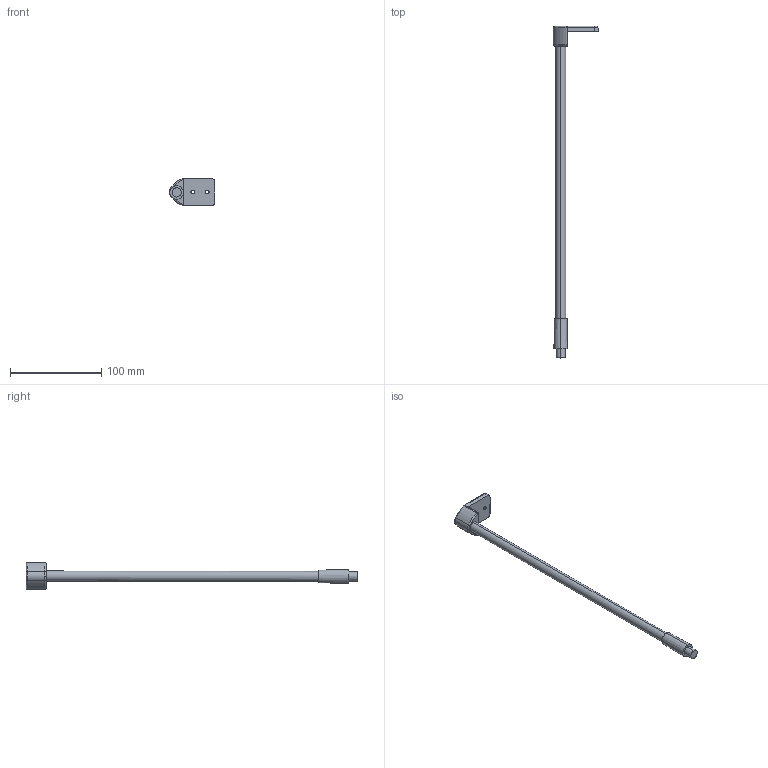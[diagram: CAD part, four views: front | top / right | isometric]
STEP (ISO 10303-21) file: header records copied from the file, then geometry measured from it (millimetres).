
FILE_DESCRIPTION (( 'STEP AP214' ), '1' );
FILE_NAME ('_2S_RUL_7107_NL350_LI.step', '2010-06-29T14:08:27', ( 'grass' ), ( '' ), 'SwSTEP 2.0', 'SolidWorks 2009', '' );
FILE_SCHEMA (( 'AUTOMOTIVE_DESIGN' ));
Length unit declared in the file: millimetre
Products named in the file (1): _2S_RUL_7107_NL350_LI
Bounding box: 49.5 x 363 x 30 mm (x, y, z)
Volume: 44739.7 mm3; surface area: 17156.3 mm2
Topology: 1 solids, 1 shells, 89 faces, 203 edges, 118 vertices
Faces by surface type: cylinder 32, plane 17, torus 16, bspline 16, cone 6, sphere 2
Entity records: 4566 total; most frequent: CARTESIAN_POINT 2608, DIRECTION 411, ORIENTED_EDGE 402, EDGE_CURVE 201, AXIS2_PLACEMENT_3D 172, VERTEX_POINT 118, CIRCLE 98, EDGE_LOOP 97
